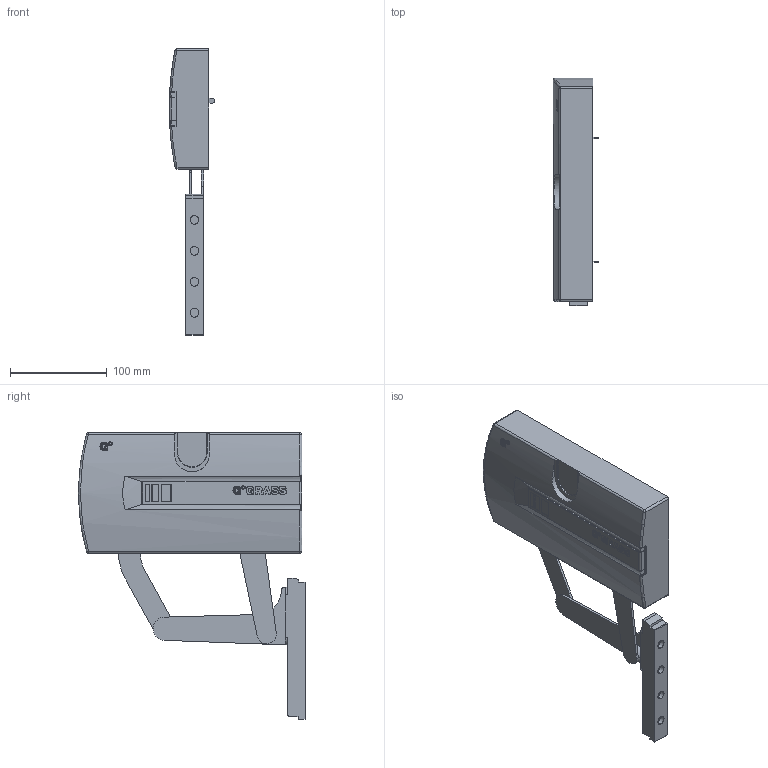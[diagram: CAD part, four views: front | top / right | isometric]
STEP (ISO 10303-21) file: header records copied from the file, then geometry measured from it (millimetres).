
FILE_DESCRIPTION (( 'STEP AP203' ), '1' );
FILE_NAME ('Kinvaro_S-35_rechts_D235600_125~b.step', '2012-05-04T06:42:12', ( 'admin' ), ( 'Hewlett-Packard Company' ), 'SwSTEP 2.0', 'SolidWorks 2011', '' );
FILE_SCHEMA (( 'CONFIG_CONTROL_DESIGN' ));
Length unit declared in the file: millimetre
Products named in the file (1): Kinvaro_S-35_rechts_D235600_125~b
Bounding box: 47 x 234.53 x 295.78 mm (x, y, z)
Volume: 1160078.7 mm3; surface area: 113809.3 mm2
Topology: 1 solids, 1 shells, 500 faces, 1335 edges, 860 vertices
Faces by surface type: cylinder 277, plane 179, torus 33, sphere 6, bspline 5
Entity records: 16362 total; most frequent: CARTESIAN_POINT 3781, ORIENTED_EDGE 2662, DIRECTION 2648, EDGE_CURVE 1331, AXIS2_PLACEMENT_3D 993, VERTEX_POINT 860, VECTOR 662, LINE 662
